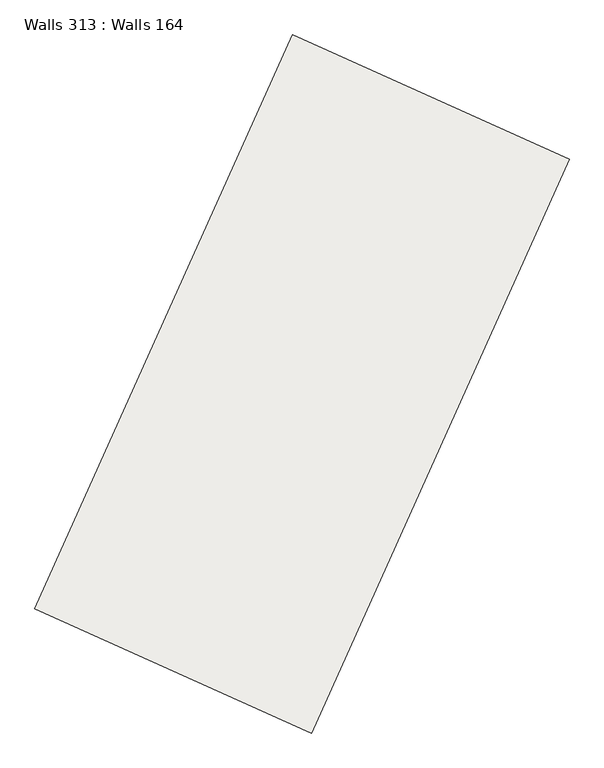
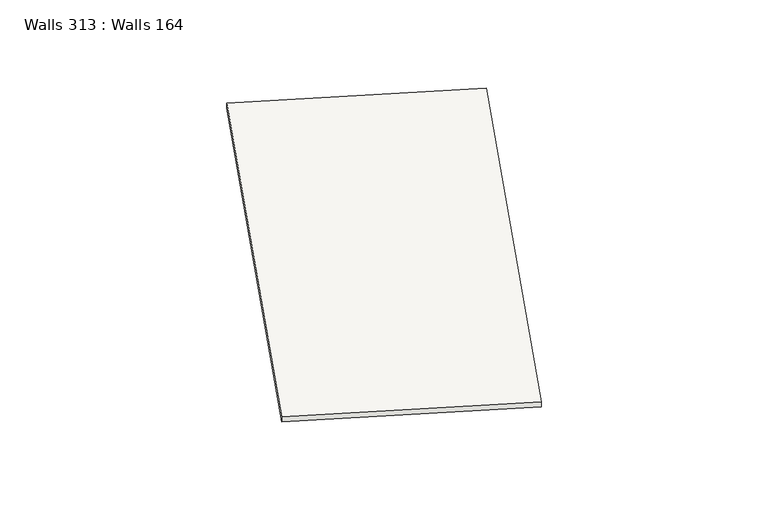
"""IFC4 building model written with IfcOpenShell, lengths in millimetres: slab geometry, Walls 313 : Walls 164."""

from ifc_helpers import new_model, si_unit, frame, origin, place, context, project, spatial, polyline, outline, extrude, source, transform, mapped, element, save


def walls_313_walls_164_9ea66e00(model_context):
    return source(origin(), model_context, "Body", "SweptSolid", [
        extrude(outline(polyline([(-50.0, 0.0), (50.0, 0.0), (-60.0, -8700.0), (-160.0, -8700.0), (-50.0, 0.0)])), frame((202805.7510461, 86598.8737844, 641490.0), z_axis=(-0.9122727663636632, 0.4095832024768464, 0.0), x_axis=(0.0, 0.0, 1.0)), (0.0, 0.0, 1.0), 4200.0),
    ])


if __name__ == "__main__":
    model = new_model("IFC4")
    model_context = context("Model", 3, world=origin())
    ifc_project = project(units=[si_unit("LENGTHUNIT", "METRE", prefix="MILLI")], contexts=[model_context])
    site = spatial("IfcSite", under=ifc_project)
    building = spatial("IfcBuilding", under=site)
    placement = place(None, origin())
    walls_313_walls_164_shape = walls_313_walls_164_9ea66e00(model_context)
    element("IfcSlab", 1, ObjectType="Walls 313 : Walls 164", at=placement, inside=building, context=model_context, shape_type="MappedRepresentation", body=[
        mapped(walls_313_walls_164_shape, transform((0.0, 0.0, 0.0), x_axis=(1.0, 0.0, 0.0), y_axis=(0.0, 1.0, 0.0), z_axis=(0.0, 0.0, 1.0))),
    ])
    save(model, "model.ifc")
